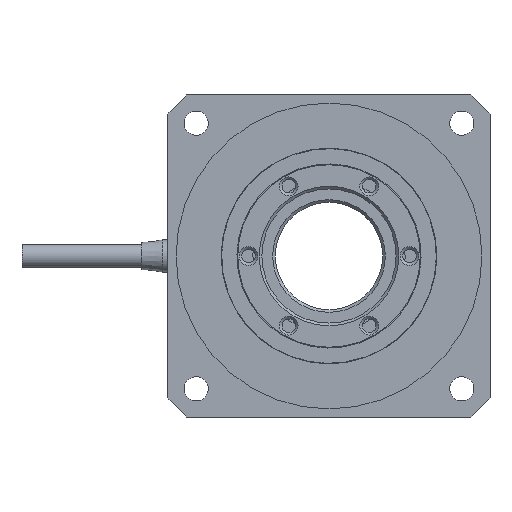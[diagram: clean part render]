
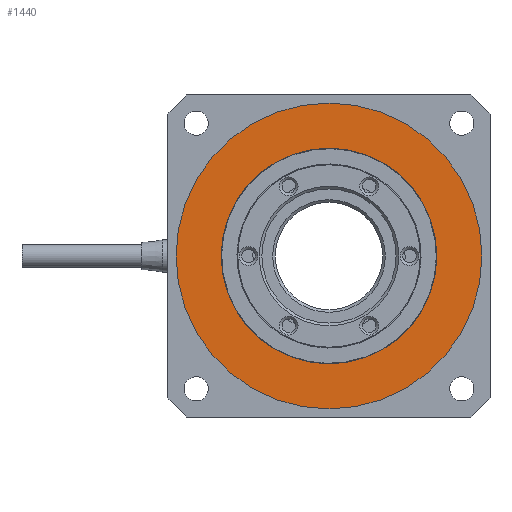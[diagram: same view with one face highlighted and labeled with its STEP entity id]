
A CAD part, left-side view. The second image highlights one B-rep face of the part: STEP entity #1440.
In plain terms, the highlighted planar face has unit normal (-1, 0, 0).
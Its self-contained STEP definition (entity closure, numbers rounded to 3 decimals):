
#1440=ADVANCED_FACE('',(#2278,#2279),#2280,.T.);
#2278=FACE_OUTER_BOUND('',#3318,.T.);
#2279=FACE_BOUND('',#3319,.T.);
#2280=PLANE('',#3320);
#3318=EDGE_LOOP('',(#4767));
#3319=EDGE_LOOP('',(#4768));
#3320=AXIS2_PLACEMENT_3D('',#4769,#4770,#4771);
#4767=ORIENTED_EDGE('',*,*,#6397,.T.);
#4768=ORIENTED_EDGE('',*,*,#6399,.F.);
#4769=CARTESIAN_POINT('',(0.,-24.3,0.0));
#4770=DIRECTION('',(-1.0,0.0,0.0));
#4771=DIRECTION('',(0.0,0.0,1.0));
#6397=EDGE_CURVE('',#7327,#7327,#7328,.T.);
#6399=EDGE_CURVE('',#7330,#7330,#7331,.T.);
#7327=VERTEX_POINT('',#8901);
#7328=CIRCLE('',#8902,28.5);
#7330=VERTEX_POINT('',#8904);
#7331=CIRCLE('',#8905,20.1);
#8901=CARTESIAN_POINT('',(0.,0.0,28.5));
#8902=AXIS2_PLACEMENT_3D('',#10803,#10804,#10805);
#8904=CARTESIAN_POINT('',(0.0,0.0,20.1));
#8905=AXIS2_PLACEMENT_3D('',#10806,#10807,#10808);
#10803=CARTESIAN_POINT('',(0.,0.0,0.0));
#10804=DIRECTION('',(-1.0,0.0,0.0));
#10805=DIRECTION('',(0.0,0.0,1.0));
#10806=CARTESIAN_POINT('',(0.0,0.0,0.0));
#10807=DIRECTION('',(-1.0,0.0,0.0));
#10808=DIRECTION('',(0.0,0.0,1.0));
